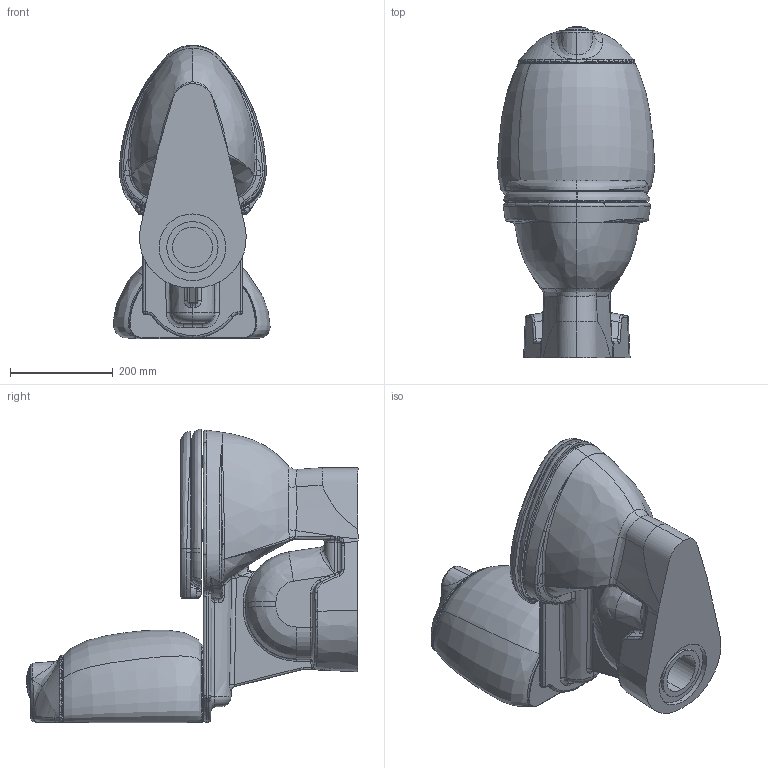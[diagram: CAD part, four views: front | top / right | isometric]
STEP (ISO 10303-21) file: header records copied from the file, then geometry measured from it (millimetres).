
FILE_DESCRIPTION (( 'STEP AP203' ), '1' );
FILE_NAME ('CK300-0B00E-FF00.STEP', '2023-01-23T07:56:01', ( '' ), ( '' ), 'SwSTEP 2.0', 'SolidWorks 2021', '' );
FILE_SCHEMA (( 'CONFIG_CONTROL_DESIGN' ));
Length unit declared in the file: millimetre
Products named in the file (1): CK300-0B00E-FF00
Bounding box: 304.78 x 647.51 x 572.57 mm (x, y, z)
Volume: 23143188.8 mm3; surface area: 1442690.4 mm2
Topology: 10 solids, 10 shells, 761 faces, 1882 edges, 1115 vertices
Faces by surface type: bspline 440, cylinder 124, plane 93, torus 78, cone 20, sphere 6
Entity records: 80469 total; most frequent: CARTESIAN_POINT 65901, ORIENTED_EDGE 3702, DIRECTION 2120, EDGE_CURVE 1851, VERTEX_POINT 1115, AXIS2_PLACEMENT_3D 922, B_SPLINE_CURVE_WITH_KNOTS 909, EDGE_LOOP 776
